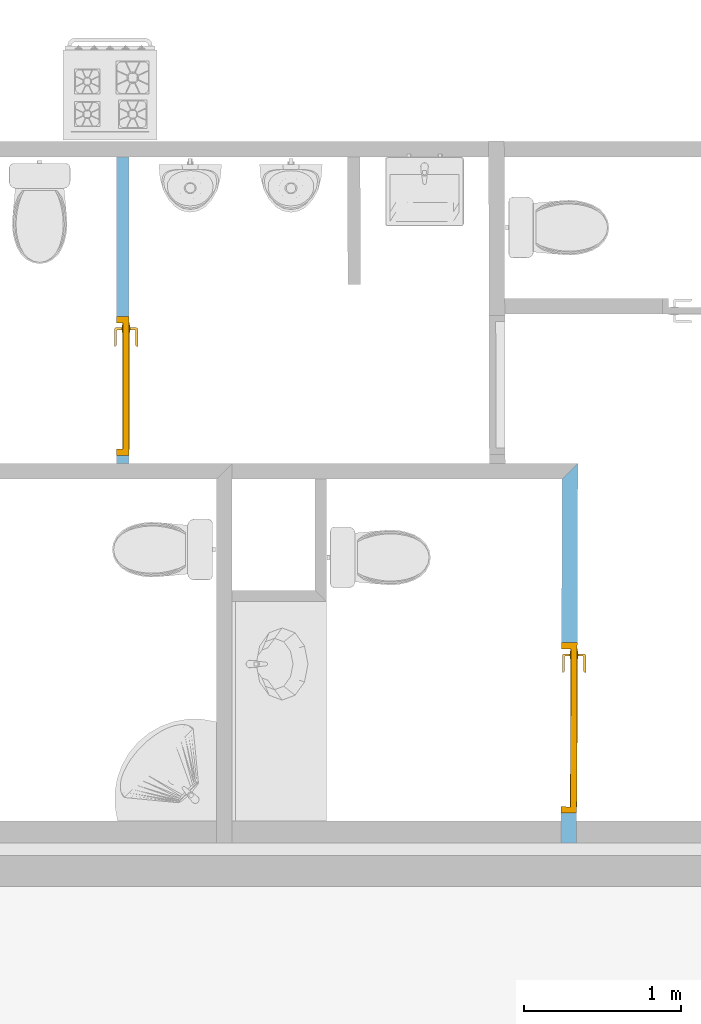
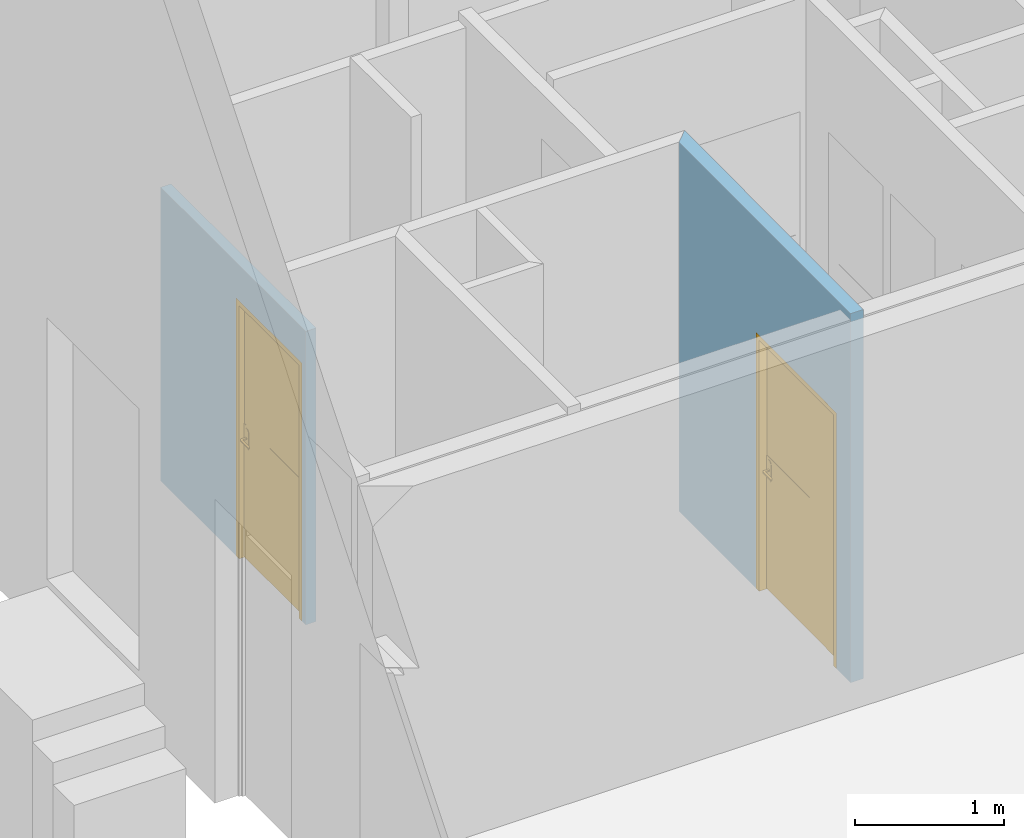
# One storey, part 19 of 34: 2 doors, 2 openings, plus 2 elements that do not belong to this part.
"""IFC2X3 building model written with IfcOpenShell, lengths in metres."""

from ifc_helpers import new_model, entity, si_unit, converted_unit, derived_unit, money_unit, direction, frame, origin_with_axes, origin_2d_with_axis, place, context, subcontext, project, spatial, polyline, rectangle, outline, extrude, faceted_brep, material, layer, layer_set, layer_usage, type_object, element, fill, save


model = new_model("IFC2X3")

# Units and contexts
model_context = context("Model", 3, precision=1e-05, world=origin_with_axes(), true_north=direction((0.0, 1.0)))
body_context = subcontext(model_context, "Body", "Model", "MODEL_VIEW")
ifc_project = project(units=[si_unit("LENGTHUNIT", "METRE"), si_unit("AREAUNIT", "SQUARE_METRE"), si_unit("VOLUMEUNIT", "CUBIC_METRE"), converted_unit("PLANEANGLEUNIT", "DEGREE", entity("IfcPlaneAngleMeasure", 0.0174532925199), si_unit("PLANEANGLEUNIT", "RADIAN"), dimensions=[0, 0, 0, 0, 0, 0, 0]), money_unit("CHF"), converted_unit("TIMEUNIT", "Year", entity("IfcTimeMeasure", 31556926.0), si_unit("TIMEUNIT", "SECOND"), dimensions=[0, 0, 1, 0, 0, 0, 0]), si_unit("MASSUNIT", "GRAM", prefix="KILO"), si_unit("THERMODYNAMICTEMPERATUREUNIT", "DEGREE_CELSIUS"), si_unit("LUMINOUSINTENSITYUNIT", "LUMEN"), si_unit("ENERGYUNIT", "JOULE", prefix="MEGA"), derived_unit("THERMALCONDUCTANCEUNIT", [(si_unit("POWERUNIT", "WATT"), 1), (si_unit("LENGTHUNIT", "METRE"), -1), (si_unit("THERMODYNAMICTEMPERATUREUNIT", "KELVIN"), -1)]), derived_unit("SPECIFICHEATCAPACITYUNIT", [(si_unit("ENERGYUNIT", "JOULE"), 1), (si_unit("MASSUNIT", "GRAM", prefix="KILO"), -1), (si_unit("THERMODYNAMICTEMPERATUREUNIT", "KELVIN"), -1)]), derived_unit("MASSDENSITYUNIT", [(si_unit("MASSUNIT", "GRAM", prefix="KILO"), 1), (si_unit("VOLUMEUNIT", "CUBIC_METRE"), -1)])], contexts=[model_context])

# Site, building, storey
site_placement = place(None, origin_with_axes())
site = spatial("IfcSite", under=ifc_project, at=site_placement, Name="Site", CompositionType="ELEMENT")
building_placement = place(site_placement, origin_with_axes())
building = spatial("IfcBuilding", under=site, at=building_placement, Name="Bâtiment", CompositionType="ELEMENT")
storey_placement = place(building_placement, origin_with_axes())
storey = spatial("IfcBuildingStorey", under=building, at=storey_placement, Name="RDC", CompositionType="ELEMENT", Elevation=-5.32907e-15)

# Wall, opening, door
ifc_material_1 = material(Name="Plâtre lissé 291446788")
ifc_layer_1 = layer(ifc_material_1, 0.018, ventilated="UNKNOWN")
ifc_material_2 = material(Name="Isolation laine de pierre 378641718")
ifc_layer_2 = layer(ifc_material_2, 0.045, ventilated="UNKNOWN")
ifc_layer_3 = layer(ifc_material_1, 0.018, ventilated="UNKNOWN")
ifc_layer_set_1 = layer_set([ifc_layer_1, ifc_layer_2, ifc_layer_3], Name="CLOISON 84/45 iso")
ifc_layer_usage_1 = layer_usage(ifc_layer_set_1, "AXIS2", "NEGATIVE", 0.0)
wall_type_1 = type_object("IfcWallType", Name="CLOISON 84/45 iso 81", PredefinedType="NOTDEFINED")
wall_1_placement = place(storey_placement, frame((1668.65729001, 184.749435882, 0.47), z_axis=(0.0, 0.0, 1.0), x_axis=(0.0, 1.0, 0.0)))
wall_1 = element("IfcWallStandardCase", 1, at=wall_1_placement, inside=storey, type_object=wall_type_1, material=ifc_layer_usage_1, Name="Mur-010", context=body_context, shape_type="SweptSolid", body=[
    extrude(outline(polyline([(0.0, -0.081), (1.95247103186, -0.081), (1.95247103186, 0.0), (0.0, 0.0), (0.0, -0.081)])), origin_with_axes(), (0.0, 0.0, 1.0), 2.41),
])
opening_1_placement = place(wall_1_placement, frame((0.493, 0.0, 0.0), z_axis=(0.0, 0.0, 1.0), x_axis=(1.0, 0.0, 0.0)))
opening_1 = element("IfcOpeningElement", 2, at=opening_1_placement, cuts=wall_1, Name="Por-004", context=body_context, shape_type="SweptSolid", body=[
    extrude(rectangle(XDim=0.886, YDim=2.118, at=origin_2d_with_axis()), frame((0.0, -0.081, 1.059), z_axis=(0.0, 1.0, 0.0), x_axis=(-1.0, 0.0, 0.0)), (0.0, 0.0, 1.0), 0.243),
])
door_style_1 = type_object("IfcDoorStyle", Name="Porte 25", ConstructionType="NOTDEFINED", OperationType="SINGLE_SWING_RIGHT", ParameterTakesPrecedence=False, Sizeable=False)
door_1_placement = place(opening_1_placement, frame((0.415, 0.0, 0.0), z_axis=(0.0, 0.0, 1.0), x_axis=(-1.0, 0.0, 0.0)))
door_1 = element("IfcDoor", 3, at=door_1_placement, inside=storey, type_object=door_style_1, Name="Por-004", OverallHeight=2.118, OverallWidth=0.886, context=body_context, shape_type="Brep", body=[
    faceted_brep([(0.012, 0.041, 0.0), (0.012, 0.041, 2.078), (0.012, 0.0, 2.078), (0.012, 0.0, 0.0), (0.0, 0.041, 2.078), (0.0, 0.041, 0.0), (0.0, 0.081, 2.078), (-0.028, 0.081, 2.078), (-0.028, 0.0, 2.078), (-0.028, 0.0, 0.0), (-0.028, 0.081, 0.0), (0.0, 0.081, 0.0)], [[[0, 1, 2, 3]], [[4, 1, 0, 5]], [[4, 6, 7, 8, 2, 1]], [[3, 2, 8, 9]], [[5, 0, 3, 9, 10, 11]], [[6, 4, 5, 11]], [[6, 11, 10, 7]], [[10, 9, 8, 7]]]),
    faceted_brep([(0.83, 0.041, 2.078), (0.818, 0.041, 2.078), (0.818, 0.0, 2.078), (0.858, 0.0, 2.078), (0.858, 0.081, 2.078), (0.83, 0.081, 2.078), (0.83, 0.041, 0.0), (0.818, 0.041, 0.0), (0.818, 0.0, 0.0), (0.858, 0.0, 0.0), (0.858, 0.081, 0.0), (0.83, 0.081, 0.0)], [[[0, 1, 2, 3, 4, 5]], [[1, 0, 6, 7]], [[1, 7, 8, 2]], [[3, 2, 8, 9]], [[4, 3, 9, 10]], [[11, 5, 4, 10]], [[0, 5, 11, 6]], [[6, 11, 10, 9, 8, 7]]]),
    faceted_brep([(0.0, 0.081, 2.09), (0.0, 0.081, 2.078), (-0.028, 0.081, 2.078), (-0.028, 0.081, 2.118), (0.858, 0.081, 2.118), (0.858, 0.081, 2.078), (0.83, 0.081, 2.078), (0.83, 0.081, 2.09), (0.0, 0.041, 2.09), (0.0, 0.041, 2.078), (0.012, 0.041, 2.078), (0.012, 0.0, 2.078), (-0.028, 0.0, 2.078), (-0.028, 0.0, 2.118), (0.858, 0.0, 2.118), (0.858, 0.0, 2.078), (0.83, 0.041, 2.078), (0.818, 0.0, 2.078), (0.818, 0.041, 2.078), (0.83, 0.041, 2.09)], [[[0, 1, 2, 3, 4, 5, 6, 7]], [[1, 0, 8, 9]], [[9, 10, 11, 12, 2, 1]], [[2, 12, 13, 3]], [[3, 13, 14, 4]], [[4, 14, 15, 5]], [[16, 6, 5, 15, 17, 18]], [[7, 6, 16, 19]], [[0, 7, 19, 8]], [[16, 18, 10, 9, 8, 19]], [[10, 18, 17, 11]], [[17, 15, 14, 13, 12, 11]]]),
    faceted_brep([(0.025, 0.041, 0.93), (0.0269030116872, 0.041, 0.920432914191), (0.0269030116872, 0.036, 0.920432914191), (0.025, 0.036, 0.93), (0.025, 0.041, 1.055), (0.0269030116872, 0.041, 1.06456708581), (0.0323223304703, 0.041, 1.07267766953), (0.0404329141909, 0.041, 1.07809698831), (0.05, 0.041, 1.08), (0.0595670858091, 0.041, 1.07809698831), (0.0676776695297, 0.041, 1.07267766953), (0.0730969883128, 0.041, 1.06456708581), (0.075, 0.041, 1.055), (0.075, 0.041, 0.93), (0.0730969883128, 0.041, 0.920432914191), (0.0676776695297, 0.041, 0.91232233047), (0.0595670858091, 0.041, 0.906903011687), (0.05, 0.041, 0.905), (0.0404329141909, 0.041, 0.906903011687), (0.0323223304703, 0.041, 0.91232233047), (0.0323223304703, 0.036, 0.91232233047), (0.0404329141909, 0.036, 0.906903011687), (0.05, 0.036, 0.905), (0.0595670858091, 0.036, 0.906903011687), (0.0676776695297, 0.036, 0.91232233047), (0.0730969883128, 0.036, 0.920432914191), (0.075, 0.036, 0.93), (0.075, 0.036, 1.055), (0.0730969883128, 0.036, 1.06456708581), (0.0676776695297, 0.036, 1.07267766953), (0.0595670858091, 0.036, 1.07809698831), (0.05, 0.036, 1.08), (0.0404329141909, 0.036, 1.07809698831), (0.0323223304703, 0.036, 1.07267766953), (0.0269030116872, 0.036, 1.06456708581), (0.025, 0.036, 1.055)], [[[0, 1, 2, 3]], [[0, 4, 5, 6, 7, 8, 9, 10, 11, 12, 13, 14, 15, 16, 17, 18, 19, 1]], [[1, 19, 20, 2]], [[3, 2, 20, 21, 22, 23, 24, 25, 26, 27, 28, 29, 30, 31, 32, 33, 34, 35]], [[4, 0, 3, 35]], [[5, 4, 35, 34]], [[6, 5, 34, 33]], [[7, 6, 33, 32]], [[8, 7, 32, 31]], [[9, 8, 31, 30]], [[10, 9, 30, 29]], [[11, 10, 29, 28]], [[12, 11, 28, 27]], [[13, 12, 27, 26]], [[14, 13, 26, 25]], [[15, 14, 25, 24]], [[16, 15, 24, 23]], [[17, 16, 23, 22]], [[18, 17, 22, 21]], [[19, 18, 21, 20]]]),
    faceted_brep([(0.0575, 0.036, 1.005), (0.0575, 0.00600000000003, 1.005), (0.0575, 0.00600000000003, 0.995), (0.0575, 0.036, 0.995), (0.0425, 0.036, 1.005), (0.0425, -0.000999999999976, 1.005), (0.0434895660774, -0.00597488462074, 1.005), (0.0463076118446, -0.0101923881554, 1.005), (0.0505251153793, -0.0130104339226, 1.005), (0.0555, -0.014, 1.005), (0.1625, -0.014, 1.005), (0.1625, -0.012, 1.005), (0.161510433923, -0.00702511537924, 1.005), (0.158692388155, -0.00280761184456, 1.005), (0.154474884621, 1.04339226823e-05, 1.005), (0.1495, 0.00100000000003, 1.005), (0.0625, 0.00100000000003, 1.005), (0.0605865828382, 0.00138060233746, 1.005), (0.0589644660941, 0.00246446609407, 1.005), (0.0578806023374, 0.00408658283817, 1.005), (0.0578806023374, 0.00408658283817, 0.995), (0.0589644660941, 0.00246446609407, 0.995), (0.0605865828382, 0.00138060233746, 0.995), (0.0625, 0.00100000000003, 0.995), (0.1495, 0.00100000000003, 0.995), (0.154474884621, 1.04339226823e-05, 0.995), (0.158692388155, -0.00280761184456, 0.995), (0.161510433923, -0.00702511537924, 0.995), (0.1625, -0.012, 0.995), (0.1625, -0.014, 0.995), (0.0555, -0.014, 0.995), (0.0505251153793, -0.0130104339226, 0.995), (0.0463076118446, -0.0101923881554, 0.995), (0.0434895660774, -0.00597488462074, 0.995), (0.0425, -0.000999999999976, 0.995), (0.0425, 0.036, 0.995)], [[[0, 1, 2, 3]], [[0, 4, 5, 6, 7, 8, 9, 10, 11, 12, 13, 14, 15, 16, 17, 18, 19, 1]], [[1, 19, 20, 2]], [[3, 2, 20, 21, 22, 23, 24, 25, 26, 27, 28, 29, 30, 31, 32, 33, 34, 35]], [[4, 0, 3, 35]], [[5, 4, 35, 34]], [[6, 5, 34, 33]], [[7, 6, 33, 32]], [[8, 7, 32, 31]], [[9, 8, 31, 30]], [[10, 9, 30, 29]], [[11, 10, 29, 28]], [[12, 11, 28, 27]], [[13, 12, 27, 26]], [[14, 13, 26, 25]], [[15, 14, 25, 24]], [[16, 15, 24, 23]], [[17, 16, 23, 22]], [[18, 17, 22, 21]], [[19, 18, 21, 20]]]),
    faceted_brep([(0.025, 0.081, 0.93), (0.025, 0.086, 0.93), (0.0269030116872, 0.086, 0.920432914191), (0.0269030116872, 0.081, 0.920432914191), (0.025, 0.081, 1.055), (0.025, 0.086, 1.055), (0.0269030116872, 0.086, 1.06456708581), (0.0323223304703, 0.086, 1.07267766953), (0.0404329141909, 0.086, 1.07809698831), (0.05, 0.086, 1.08), (0.0595670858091, 0.086, 1.07809698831), (0.0676776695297, 0.086, 1.07267766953), (0.0730969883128, 0.086, 1.06456708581), (0.075, 0.086, 1.055), (0.075, 0.086, 0.93), (0.0730969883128, 0.086, 0.920432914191), (0.0676776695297, 0.086, 0.91232233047), (0.0595670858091, 0.086, 0.906903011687), (0.05, 0.086, 0.905), (0.0404329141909, 0.086, 0.906903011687), (0.0323223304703, 0.086, 0.91232233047), (0.0323223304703, 0.081, 0.91232233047), (0.0404329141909, 0.081, 0.906903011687), (0.05, 0.081, 0.905), (0.0595670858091, 0.081, 0.906903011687), (0.0676776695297, 0.081, 0.91232233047), (0.0730969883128, 0.081, 0.920432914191), (0.075, 0.081, 0.93), (0.075, 0.081, 1.055), (0.0730969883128, 0.081, 1.06456708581), (0.0676776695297, 0.081, 1.07267766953), (0.0595670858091, 0.081, 1.07809698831), (0.05, 0.081, 1.08), (0.0404329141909, 0.081, 1.07809698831), (0.0323223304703, 0.081, 1.07267766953), (0.0269030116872, 0.081, 1.06456708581)], [[[0, 1, 2, 3]], [[4, 5, 1, 0]], [[1, 5, 6, 7, 8, 9, 10, 11, 12, 13, 14, 15, 16, 17, 18, 19, 20, 2]], [[3, 2, 20, 21]], [[0, 3, 21, 22, 23, 24, 25, 26, 27, 28, 29, 30, 31, 32, 33, 34, 35, 4]], [[35, 6, 5, 4]], [[34, 7, 6, 35]], [[33, 8, 7, 34]], [[32, 9, 8, 33]], [[31, 10, 9, 32]], [[30, 11, 10, 31]], [[29, 12, 11, 30]], [[28, 13, 12, 29]], [[27, 14, 13, 28]], [[26, 15, 14, 27]], [[25, 16, 15, 26]], [[24, 17, 16, 25]], [[23, 18, 17, 24]], [[22, 19, 18, 23]], [[21, 20, 19, 22]]]),
    faceted_brep([(0.0575, 0.086, 1.005), (0.0575, 0.086, 0.995), (0.0575, 0.116, 0.995), (0.0575, 0.116, 1.005), (0.0425, 0.086, 1.005), (0.0425, 0.086, 0.995), (0.0425, 0.123, 0.995), (0.0434895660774, 0.127974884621, 0.995), (0.0463076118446, 0.132192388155, 0.995), (0.0505251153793, 0.135010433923, 0.995), (0.0555, 0.136, 0.995), (0.1625, 0.136, 0.995), (0.1625, 0.134, 0.995), (0.161510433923, 0.129025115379, 0.995), (0.158692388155, 0.124807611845, 0.995), (0.154474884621, 0.121989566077, 0.995), (0.1495, 0.121, 0.995), (0.0625, 0.121, 0.995), (0.0605865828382, 0.120619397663, 0.995), (0.0589644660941, 0.119535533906, 0.995), (0.0578806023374, 0.117913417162, 0.995), (0.0578806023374, 0.117913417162, 1.005), (0.0589644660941, 0.119535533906, 1.005), (0.0605865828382, 0.120619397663, 1.005), (0.0625, 0.121, 1.005), (0.1495, 0.121, 1.005), (0.154474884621, 0.121989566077, 1.005), (0.158692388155, 0.124807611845, 1.005), (0.161510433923, 0.129025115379, 1.005), (0.1625, 0.134, 1.005), (0.1625, 0.136, 1.005), (0.0555, 0.136, 1.005), (0.0505251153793, 0.135010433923, 1.005), (0.0463076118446, 0.132192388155, 1.005), (0.0434895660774, 0.127974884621, 1.005), (0.0425, 0.123, 1.005)], [[[0, 1, 2, 3]], [[4, 5, 1, 0]], [[1, 5, 6, 7, 8, 9, 10, 11, 12, 13, 14, 15, 16, 17, 18, 19, 20, 2]], [[3, 2, 20, 21]], [[0, 3, 21, 22, 23, 24, 25, 26, 27, 28, 29, 30, 31, 32, 33, 34, 35, 4]], [[35, 6, 5, 4]], [[34, 7, 6, 35]], [[33, 8, 7, 34]], [[32, 9, 8, 33]], [[31, 10, 9, 32]], [[30, 11, 10, 31]], [[29, 12, 11, 30]], [[28, 13, 12, 29]], [[27, 14, 13, 28]], [[26, 15, 14, 27]], [[25, 16, 15, 26]], [[24, 17, 16, 25]], [[23, 18, 17, 24]], [[22, 19, 18, 23]], [[21, 20, 19, 22]]]),
    faceted_brep([(0.82, 0.039, 0.01), (0.01, 0.039, 0.01), (0.01, 0.041, 0.01), (0.82, 0.041, 0.01), (0.82, 0.039, 1.1), (0.01, 0.039, 1.1), (0.01, 0.041, 1.1), (0.82, 0.041, 1.1)], [[[0, 1, 2, 3]], [[0, 4, 5, 1]], [[1, 5, 6, 2]], [[3, 2, 6, 7]], [[4, 0, 3, 7]], [[5, 4, 7, 6]]]),
    faceted_brep([(0.82, 0.081, 0.01), (0.01, 0.081, 0.01), (0.01, 0.083, 0.01), (0.82, 0.083, 0.01), (0.82, 0.081, 1.1), (0.01, 0.081, 1.1), (0.01, 0.083, 1.1), (0.82, 0.083, 1.1)], [[[0, 1, 2, 3]], [[0, 4, 5, 1]], [[1, 5, 6, 2]], [[3, 2, 6, 7]], [[4, 0, 3, 7]], [[5, 4, 7, 6]]]),
    faceted_brep([(0.83, 0.081, 0.0), (0.83, 0.041, 0.0), (0.0, 0.041, 0.0), (0.0, 0.081, 0.0), (0.83, 0.081, 2.09), (0.83, 0.041, 2.09), (0.0, 0.041, 2.09), (0.0, 0.081, 2.09)], [[[0, 1, 2, 3]], [[4, 5, 1, 0]], [[1, 5, 6, 2]], [[3, 2, 6, 7]], [[0, 3, 7, 4]], [[7, 6, 5, 4]]]),
])
fill(opening_1, door_1)

ifc_layer_4 = layer(ifc_material_1, 0.015, ventilated="UNKNOWN")
ifc_material_3 = material(Name="Isolation laine de pierre 307970822")
ifc_layer_5 = layer(ifc_material_3, 0.07, ventilated="UNKNOWN")
ifc_layer_6 = layer(ifc_material_1, 0.015, ventilated="UNKNOWN")
ifc_layer_set_2 = layer_set([ifc_layer_4, ifc_layer_5, ifc_layer_6], Name="CLOISON 10 ROUGE")
ifc_layer_usage_2 = layer_usage(ifc_layer_set_2, "AXIS2", "NEGATIVE", 0.0)
wall_type_2 = type_object("IfcWallType", Name="CLOISON 10 ROUGE 100", PredefinedType="NOTDEFINED")
wall_2_placement = place(storey_placement, frame((1671.49103022, 182.33004191, 0.47), z_axis=(0.0, 0.0, 1.0), x_axis=(0.00319938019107, 0.99999488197, 0.0)))
wall_2 = element("IfcWallStandardCase", 4, at=wall_2_placement, inside=storey, type_object=wall_type_2, material=ifc_layer_usage_2, Name="Mur-010", context=body_context, shape_type="SweptSolid", body=[
    extrude(outline(polyline([(0.0, -0.1), (2.41972629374, -0.1), (2.31940584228, 0.0), (0.0, 0.0), (0.0, -0.1)])), origin_with_axes(), (0.0, 0.0, 1.0), 3.03000008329),
])
opening_2_placement = place(wall_2_placement, frame((0.733000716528, 0.0, 0.0), z_axis=(0.0, 0.0, 1.0), x_axis=(1.0, 0.0, 0.0)))
opening_2 = element("IfcOpeningElement", 5, at=opening_2_placement, cuts=wall_2, Name="Por-004", context=body_context, shape_type="SweptSolid", body=[
    extrude(rectangle(XDim=1.086, YDim=2.1, at=origin_2d_with_axis()), frame((0.0, -0.1, 1.05), z_axis=(0.0, 1.0, 0.0), x_axis=(-1.0, 0.0, 0.0)), (0.0, 0.0, 1.0), 0.3),
])
door_style_2 = type_object("IfcDoorStyle", Name="Porte 25", ConstructionType="NOTDEFINED", OperationType="SINGLE_SWING_RIGHT", ParameterTakesPrecedence=False, Sizeable=False)
door_2_placement = place(opening_2_placement, frame((0.515, 0.0, 0.0), z_axis=(0.0, 0.0, 1.0), x_axis=(-1.0, 0.0, 0.0)))
door_2 = element("IfcDoor", 6, at=door_2_placement, inside=storey, type_object=door_style_2, Name="Por-004", OverallHeight=2.1, OverallWidth=1.086, context=body_context, shape_type="Brep", body=[
    faceted_brep([(0.012, 0.06, 0.0), (0.012, 0.06, 2.06), (0.012, 0.0, 2.06), (0.012, 0.0, 0.0), (0.0, 0.06, 2.06), (0.0, 0.06, 0.0), (0.0, 0.1, 2.06), (-0.028, 0.1, 2.06), (-0.028, 0.0, 2.06), (-0.028, 0.0, 0.0), (-0.028, 0.1, 0.0), (0.0, 0.1, 0.0)], [[[0, 1, 2, 3]], [[4, 1, 0, 5]], [[4, 6, 7, 8, 2, 1]], [[3, 2, 8, 9]], [[5, 0, 3, 9, 10, 11]], [[6, 4, 5, 11]], [[6, 11, 10, 7]], [[10, 9, 8, 7]]]),
    faceted_brep([(1.03, 0.0599999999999, 2.06), (1.018, 0.06, 2.06), (1.018, 0.0, 2.06), (1.058, 0.0, 2.06), (1.058, 0.1, 2.06), (1.03, 0.1, 2.06), (1.03, 0.0599999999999, 0.0), (1.018, 0.06, 0.0), (1.018, 0.0, 0.0), (1.058, 0.0, 0.0), (1.058, 0.1, 0.0), (1.03, 0.1, 0.0)], [[[0, 1, 2, 3, 4, 5]], [[1, 0, 6, 7]], [[1, 7, 8, 2]], [[3, 2, 8, 9]], [[4, 3, 9, 10]], [[11, 5, 4, 10]], [[0, 5, 11, 6]], [[6, 11, 10, 9, 8, 7]]]),
    faceted_brep([(0.0, 0.1, 2.072), (0.0, 0.1, 2.06), (-0.028, 0.1, 2.06), (-0.028, 0.1, 2.1), (1.058, 0.1, 2.1), (1.058, 0.1, 2.06), (1.03, 0.1, 2.06), (1.03, 0.1, 2.072), (0.0, 0.06, 2.072), (0.0, 0.06, 2.06), (0.012, 0.06, 2.06), (0.012, 0.0, 2.06), (-0.028, 0.0, 2.06), (-0.028, 0.0, 2.1), (1.058, 0.0, 2.1), (1.058, 0.0, 2.06), (1.03, 0.0599999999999, 2.06), (1.018, 0.0, 2.06), (1.018, 0.06, 2.06), (1.03, 0.0599999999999, 2.072)], [[[0, 1, 2, 3, 4, 5, 6, 7]], [[1, 0, 8, 9]], [[9, 10, 11, 12, 2, 1]], [[2, 12, 13, 3]], [[3, 13, 14, 4]], [[4, 14, 15, 5]], [[16, 6, 5, 15, 17, 18]], [[7, 6, 16, 19]], [[0, 7, 19, 8]], [[16, 18, 10, 9, 8, 19]], [[10, 18, 17, 11]], [[17, 15, 14, 13, 12, 11]]]),
    faceted_brep([(0.025, 0.0599999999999, 0.93), (0.0269030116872, 0.06, 0.920432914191), (0.0269030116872, 0.055, 0.920432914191), (0.025, 0.055, 0.93), (0.025, 0.0599999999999, 1.055), (0.0269030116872, 0.06, 1.06456708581), (0.0323223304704, 0.0600000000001, 1.07267766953), (0.0404329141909, 0.06, 1.07809698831), (0.05, 0.06, 1.08), (0.0595670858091, 0.06, 1.07809698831), (0.0676776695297, 0.0599999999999, 1.07267766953), (0.0730969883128, 0.06, 1.06456708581), (0.075, 0.06, 1.055), (0.075, 0.06, 0.93), (0.0730969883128, 0.06, 0.920432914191), (0.0676776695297, 0.0599999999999, 0.91232233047), (0.0595670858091, 0.06, 0.906903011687), (0.05, 0.06, 0.905), (0.0404329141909, 0.06, 0.906903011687), (0.0323223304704, 0.0600000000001, 0.91232233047), (0.0323223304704, 0.0549999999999, 0.91232233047), (0.0404329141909, 0.055, 0.906903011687), (0.05, 0.0549999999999, 0.905), (0.0595670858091, 0.055, 0.906903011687), (0.0676776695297, 0.055, 0.91232233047), (0.0730969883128, 0.055, 0.920432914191), (0.075, 0.0549999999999, 0.93), (0.075, 0.0549999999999, 1.055), (0.0730969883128, 0.055, 1.06456708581), (0.0676776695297, 0.055, 1.07267766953), (0.0595670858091, 0.055, 1.07809698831), (0.05, 0.0549999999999, 1.08), (0.0404329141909, 0.055, 1.07809698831), (0.0323223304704, 0.0549999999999, 1.07267766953), (0.0269030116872, 0.055, 1.06456708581), (0.025, 0.055, 1.055)], [[[0, 1, 2, 3]], [[0, 4, 5, 6, 7, 8, 9, 10, 11, 12, 13, 14, 15, 16, 17, 18, 19, 1]], [[1, 19, 20, 2]], [[3, 2, 20, 21, 22, 23, 24, 25, 26, 27, 28, 29, 30, 31, 32, 33, 34, 35]], [[4, 0, 3, 35]], [[5, 4, 35, 34]], [[6, 5, 34, 33]], [[7, 6, 33, 32]], [[8, 7, 32, 31]], [[9, 8, 31, 30]], [[10, 9, 30, 29]], [[11, 10, 29, 28]], [[12, 11, 28, 27]], [[13, 12, 27, 26]], [[14, 13, 26, 25]], [[15, 14, 25, 24]], [[16, 15, 24, 23]], [[17, 16, 23, 22]], [[18, 17, 22, 21]], [[19, 18, 21, 20]]]),
    faceted_brep([(0.0575, 0.055, 1.005), (0.0575, 0.025, 1.005), (0.0575, 0.025, 0.995), (0.0575, 0.055, 0.995), (0.0425, 0.055, 1.005), (0.0425, 0.018, 1.005), (0.0434895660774, 0.0130251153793, 1.005), (0.0463076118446, 0.00880761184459, 1.005), (0.0505251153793, 0.00598956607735, 1.005), (0.0555, 0.005, 1.005), (0.1625, 0.005, 1.005), (0.1625, 0.00699999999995, 1.005), (0.161510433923, 0.0119748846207, 1.005), (0.158692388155, 0.0161923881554, 1.005), (0.154474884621, 0.0190104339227, 1.005), (0.1495, 0.02, 1.005), (0.0625, 0.02, 1.005), (0.0605865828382, 0.0203806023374, 1.005), (0.0589644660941, 0.0214644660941, 1.005), (0.0578806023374, 0.0230865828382, 1.005), (0.0578806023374, 0.0230865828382, 0.995), (0.0589644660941, 0.0214644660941, 0.995), (0.0605865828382, 0.0203806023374, 0.995), (0.0625, 0.02, 0.995), (0.1495, 0.02, 0.995), (0.154474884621, 0.0190104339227, 0.995), (0.158692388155, 0.0161923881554, 0.995), (0.161510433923, 0.0119748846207, 0.995), (0.1625, 0.00699999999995, 0.995), (0.1625, 0.005, 0.995), (0.0555, 0.005, 0.995), (0.0505251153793, 0.00598956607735, 0.995), (0.0463076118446, 0.00880761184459, 0.995), (0.0434895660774, 0.0130251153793, 0.995), (0.0425, 0.018, 0.995), (0.0425, 0.055, 0.995)], [[[0, 1, 2, 3]], [[0, 4, 5, 6, 7, 8, 9, 10, 11, 12, 13, 14, 15, 16, 17, 18, 19, 1]], [[1, 19, 20, 2]], [[3, 2, 20, 21, 22, 23, 24, 25, 26, 27, 28, 29, 30, 31, 32, 33, 34, 35]], [[4, 0, 3, 35]], [[5, 4, 35, 34]], [[6, 5, 34, 33]], [[7, 6, 33, 32]], [[8, 7, 32, 31]], [[9, 8, 31, 30]], [[10, 9, 30, 29]], [[11, 10, 29, 28]], [[12, 11, 28, 27]], [[13, 12, 27, 26]], [[14, 13, 26, 25]], [[15, 14, 25, 24]], [[16, 15, 24, 23]], [[17, 16, 23, 22]], [[18, 17, 22, 21]], [[19, 18, 21, 20]]]),
    faceted_brep([(0.025, 0.1, 0.93), (0.025, 0.105, 0.93), (0.0269030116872, 0.105, 0.920432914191), (0.0269030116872, 0.1, 0.920432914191), (0.025, 0.1, 1.055), (0.025, 0.105, 1.055), (0.0269030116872, 0.105, 1.06456708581), (0.0323223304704, 0.105, 1.07267766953), (0.0404329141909, 0.105, 1.07809698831), (0.05, 0.105, 1.08), (0.0595670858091, 0.105, 1.07809698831), (0.0676776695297, 0.105, 1.07267766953), (0.0730969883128, 0.105, 1.06456708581), (0.075, 0.105, 1.055), (0.075, 0.105, 0.93), (0.0730969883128, 0.105, 0.920432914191), (0.0676776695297, 0.105, 0.91232233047), (0.0595670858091, 0.105, 0.906903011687), (0.05, 0.105, 0.905), (0.0404329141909, 0.105, 0.906903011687), (0.0323223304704, 0.105, 0.91232233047), (0.0323223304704, 0.1, 0.91232233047), (0.0404329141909, 0.1, 0.906903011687), (0.05, 0.1, 0.905), (0.0595670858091, 0.1, 0.906903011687), (0.0676776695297, 0.1, 0.91232233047), (0.0730969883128, 0.1, 0.920432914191), (0.075, 0.1, 0.93), (0.075, 0.1, 1.055), (0.0730969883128, 0.1, 1.06456708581), (0.0676776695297, 0.1, 1.07267766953), (0.0595670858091, 0.1, 1.07809698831), (0.05, 0.1, 1.08), (0.0404329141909, 0.1, 1.07809698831), (0.0323223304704, 0.1, 1.07267766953), (0.0269030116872, 0.1, 1.06456708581)], [[[0, 1, 2, 3]], [[4, 5, 1, 0]], [[1, 5, 6, 7, 8, 9, 10, 11, 12, 13, 14, 15, 16, 17, 18, 19, 20, 2]], [[3, 2, 20, 21]], [[0, 3, 21, 22, 23, 24, 25, 26, 27, 28, 29, 30, 31, 32, 33, 34, 35, 4]], [[35, 6, 5, 4]], [[34, 7, 6, 35]], [[33, 8, 7, 34]], [[32, 9, 8, 33]], [[31, 10, 9, 32]], [[30, 11, 10, 31]], [[29, 12, 11, 30]], [[28, 13, 12, 29]], [[27, 14, 13, 28]], [[26, 15, 14, 27]], [[25, 16, 15, 26]], [[24, 17, 16, 25]], [[23, 18, 17, 24]], [[22, 19, 18, 23]], [[21, 20, 19, 22]]]),
    faceted_brep([(0.0575, 0.105, 1.005), (0.0575, 0.105, 0.995), (0.0575, 0.135, 0.995), (0.0575, 0.135, 1.005), (0.0425, 0.105, 1.005), (0.0425, 0.105, 0.995), (0.0425, 0.142, 0.995), (0.0434895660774, 0.146974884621, 0.995), (0.0463076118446, 0.151192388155, 0.995), (0.0505251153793, 0.154010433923, 0.995), (0.0555, 0.155, 0.995), (0.1625, 0.155, 0.995), (0.1625, 0.153, 0.995), (0.161510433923, 0.148025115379, 0.995), (0.158692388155, 0.143807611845, 0.995), (0.154474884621, 0.140989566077, 0.995), (0.1495, 0.14, 0.995), (0.0625, 0.14, 0.995), (0.0605865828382, 0.139619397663, 0.995), (0.0589644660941, 0.138535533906, 0.995), (0.0578806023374, 0.136913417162, 0.995), (0.0578806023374, 0.136913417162, 1.005), (0.0589644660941, 0.138535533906, 1.005), (0.0605865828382, 0.139619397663, 1.005), (0.0625, 0.14, 1.005), (0.1495, 0.14, 1.005), (0.154474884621, 0.140989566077, 1.005), (0.158692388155, 0.143807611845, 1.005), (0.161510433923, 0.148025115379, 1.005), (0.1625, 0.153, 1.005), (0.1625, 0.155, 1.005), (0.0555, 0.155, 1.005), (0.0505251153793, 0.154010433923, 1.005), (0.0463076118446, 0.151192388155, 1.005), (0.0434895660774, 0.146974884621, 1.005), (0.0425, 0.142, 1.005)], [[[0, 1, 2, 3]], [[4, 5, 1, 0]], [[1, 5, 6, 7, 8, 9, 10, 11, 12, 13, 14, 15, 16, 17, 18, 19, 20, 2]], [[3, 2, 20, 21]], [[0, 3, 21, 22, 23, 24, 25, 26, 27, 28, 29, 30, 31, 32, 33, 34, 35, 4]], [[35, 6, 5, 4]], [[34, 7, 6, 35]], [[33, 8, 7, 34]], [[32, 9, 8, 33]], [[31, 10, 9, 32]], [[30, 11, 10, 31]], [[29, 12, 11, 30]], [[28, 13, 12, 29]], [[27, 14, 13, 28]], [[26, 15, 14, 27]], [[25, 16, 15, 26]], [[24, 17, 16, 25]], [[23, 18, 17, 24]], [[22, 19, 18, 23]], [[21, 20, 19, 22]]]),
    faceted_brep([(1.02, 0.058, 0.01), (0.01, 0.058, 0.01), (0.01, 0.0599999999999, 0.01), (1.02, 0.06, 0.01), (1.02, 0.058, 1.1), (0.01, 0.058, 1.1), (0.01, 0.0599999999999, 1.1), (1.02, 0.06, 1.1)], [[[0, 1, 2, 3]], [[0, 4, 5, 1]], [[1, 5, 6, 2]], [[3, 2, 6, 7]], [[4, 0, 3, 7]], [[5, 4, 7, 6]]]),
    faceted_brep([(1.02, 0.1, 0.01), (0.01, 0.1, 0.01), (0.01, 0.102, 0.01), (1.02, 0.102, 0.01), (1.02, 0.1, 1.1), (0.01, 0.1, 1.1), (0.01, 0.102, 1.1), (1.02, 0.102, 1.1)], [[[0, 1, 2, 3]], [[0, 4, 5, 1]], [[1, 5, 6, 2]], [[3, 2, 6, 7]], [[4, 0, 3, 7]], [[5, 4, 7, 6]]]),
    faceted_brep([(1.03, 0.1, 0.0), (1.03, 0.0599999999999, 0.0), (0.0, 0.06, 0.0), (0.0, 0.1, 0.0), (1.03, 0.1, 2.072), (1.03, 0.0599999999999, 2.072), (0.0, 0.06, 2.072), (0.0, 0.1, 2.072)], [[[0, 1, 2, 3]], [[4, 5, 1, 0]], [[1, 5, 6, 2]], [[3, 2, 6, 7]], [[0, 3, 7, 4]], [[7, 6, 5, 4]]]),
])
fill(opening_2, door_2)

save(model, "model.ifc")
